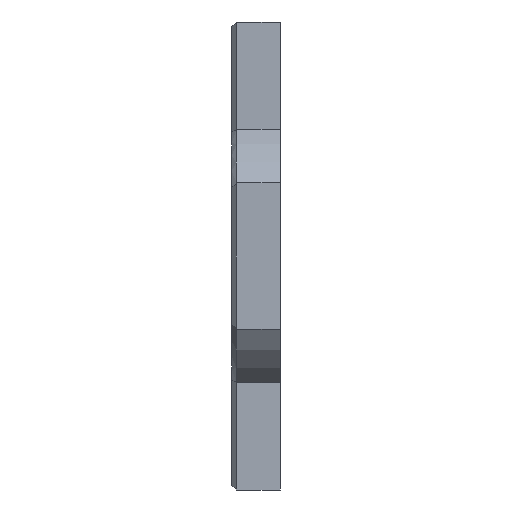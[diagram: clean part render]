
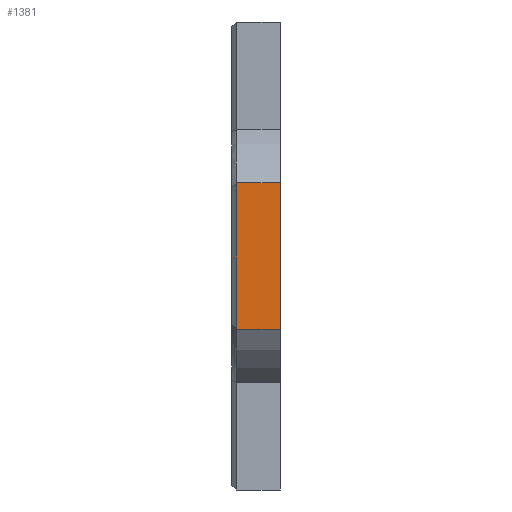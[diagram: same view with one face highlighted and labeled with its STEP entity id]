
A CAD part, left-side view. The second image highlights one B-rep face of the part: STEP entity #1381.
In plain terms, the highlighted planar face has unit normal (-1, 0, 0).
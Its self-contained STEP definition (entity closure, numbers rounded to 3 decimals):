
#71 = CARTESIAN_POINT ( 'NONE',  ( -48., 9., -15. ) ) ;
#74 = LINE ( 'NONE', #1250, #271 ) ;
#171 = DIRECTION ( 'NONE',  ( 0., -1., 0. ) ) ;
#195 = DIRECTION ( 'NONE',  ( 1., 0., 0. ) ) ;
#253 = ORIENTED_EDGE ( 'NONE', *, *, #1269, .F. ) ;
#271 = VECTOR ( 'NONE', #171, 1000. ) ;
#289 = CARTESIAN_POINT ( 'NONE',  ( -48., 10., 15. ) ) ;
#299 = VECTOR ( 'NONE', #683, 1000. ) ;
#306 = VERTEX_POINT ( 'NONE', #1300 ) ;
#361 = CARTESIAN_POINT ( 'NONE',  ( -48., 9., -15. ) ) ;
#397 = LINE ( 'NONE', #289, #1387 ) ;
#411 = CARTESIAN_POINT ( 'NONE',  ( -48., 10., 15. ) ) ;
#432 = FACE_OUTER_BOUND ( 'NONE', #1119, .T. ) ;
#511 = DIRECTION ( 'NONE',  ( 0., 0., 1. ) ) ;
#580 = LINE ( 'NONE', #361, #299 ) ;
#581 = ORIENTED_EDGE ( 'NONE', *, *, #592, .T. ) ;
#592 = EDGE_CURVE ( 'NONE', #306, #1309, #580, .T. ) ;
#610 = DIRECTION ( 'NONE',  ( 0., -1., 0. ) ) ;
#646 = PLANE ( 'NONE',  #961 ) ;
#669 = VERTEX_POINT ( 'NONE', #900 ) ;
#683 = DIRECTION ( 'NONE',  ( 0., 0., -1. ) ) ;
#777 = EDGE_CURVE ( 'NONE', #1309, #669, #74, .T. ) ;
#795 = ORIENTED_EDGE ( 'NONE', *, *, #777, .T. ) ;
#863 = DIRECTION ( 'NONE',  ( 0., 0., -1. ) ) ;
#900 = CARTESIAN_POINT ( 'NONE',  ( -48., 0., -15. ) ) ;
#961 = AXIS2_PLACEMENT_3D ( 'NONE', #411, #195, #863 ) ;
#1031 = VECTOR ( 'NONE', #511, 1000. ) ;
#1119 = EDGE_LOOP ( 'NONE', ( #253, #581, #795, #1224 ) ) ;
#1140 = LINE ( 'NONE', #1238, #1031 ) ;
#1224 = ORIENTED_EDGE ( 'NONE', *, *, #1230, .T. ) ;
#1230 = EDGE_CURVE ( 'NONE', #669, #1370, #1140, .T. ) ;
#1238 = CARTESIAN_POINT ( 'NONE',  ( -48., 0., 15. ) ) ;
#1250 = CARTESIAN_POINT ( 'NONE',  ( -48., 10., -15. ) ) ;
#1269 = EDGE_CURVE ( 'NONE', #306, #1370, #397, .T. ) ;
#1300 = CARTESIAN_POINT ( 'NONE',  ( -48., 9., 15. ) ) ;
#1309 = VERTEX_POINT ( 'NONE', #71 ) ;
#1370 = VERTEX_POINT ( 'NONE', #1395 ) ;
#1381 = ADVANCED_FACE ( 'NONE', ( #432 ), #646, .F. ) ;
#1387 = VECTOR ( 'NONE', #610, 1000. ) ;
#1395 = CARTESIAN_POINT ( 'NONE',  ( -48., 0., 15. ) ) ;
